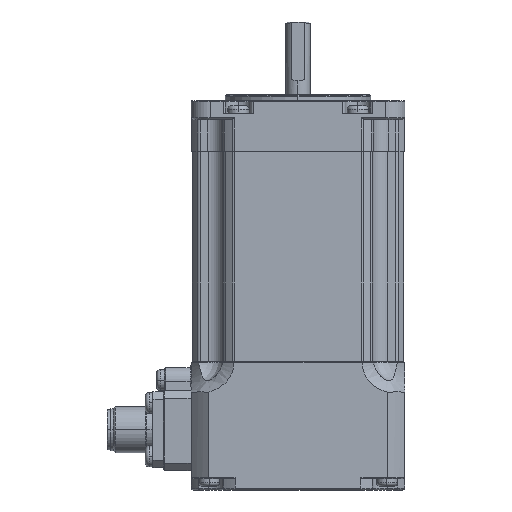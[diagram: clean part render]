
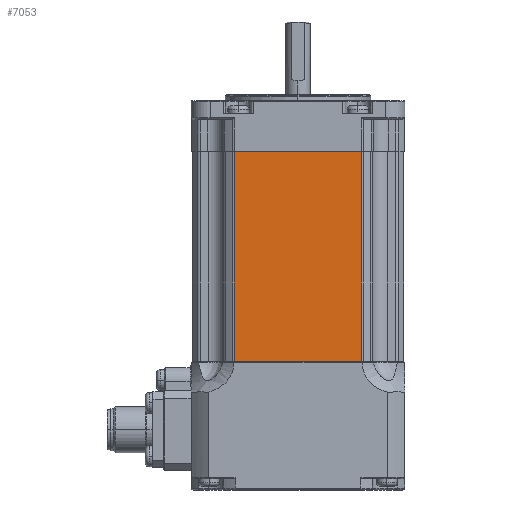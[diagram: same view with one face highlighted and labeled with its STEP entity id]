
A CAD part, left-side view. The second image highlights one B-rep face of the part: STEP entity #7053.
In plain terms, the highlighted planar face has unit normal (-1, 0, 0).
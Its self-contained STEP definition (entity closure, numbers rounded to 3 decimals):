
#531 = PLANE ( 'NONE',  #10846 ) ;
#1227 = CARTESIAN_POINT ( 'NONE',  ( -27.7, 16.714, 88.7 ) ) ;
#2163 = EDGE_CURVE ( 'NONE', #12146, #4502, #22148, .T. ) ;
#2474 = CARTESIAN_POINT ( 'NONE',  ( -27.7, 16.714, 88.7 ) ) ;
#2570 = DIRECTION ( 'NONE',  ( 0., 0., -1. ) ) ;
#2659 = CARTESIAN_POINT ( 'NONE',  ( -27.7, -16.715, 33.7 ) ) ;
#2900 = FACE_OUTER_BOUND ( 'NONE', #5599, .T. ) ;
#3240 = DIRECTION ( 'NONE',  ( 0., -1., 0. ) ) ;
#3468 = VERTEX_POINT ( 'NONE', #25133 ) ;
#4502 = VERTEX_POINT ( 'NONE', #2659 ) ;
#4674 = VECTOR ( 'NONE', #18162, 1000. ) ;
#5251 = VECTOR ( 'NONE', #18149, 1000. ) ;
#5363 = CARTESIAN_POINT ( 'NONE',  ( -27.7, -16.714, 88.7 ) ) ;
#5599 = EDGE_LOOP ( 'NONE', ( #16168, #10974, #8472, #18535 ) ) ;
#6261 = EDGE_CURVE ( 'NONE', #3468, #4502, #20613, .T. ) ;
#7053 = ADVANCED_FACE ( 'NONE', ( #2900 ), #531, .F. ) ;
#8472 = ORIENTED_EDGE ( 'NONE', *, *, #25824, .F. ) ;
#9938 = VERTEX_POINT ( 'NONE', #2474 ) ;
#10567 = EDGE_CURVE ( 'NONE', #9938, #3468, #15934, .T. ) ;
#10846 = AXIS2_PLACEMENT_3D ( 'NONE', #14448, #14524, #2570 ) ;
#10974 = ORIENTED_EDGE ( 'NONE', *, *, #2163, .F. ) ;
#12146 = VERTEX_POINT ( 'NONE', #5363 ) ;
#12181 = VECTOR ( 'NONE', #15932, 1000. ) ;
#12823 = VECTOR ( 'NONE', #3240, 1000. ) ;
#14135 = CARTESIAN_POINT ( 'NONE',  ( -27.7, 16.714, 88.7 ) ) ;
#14448 = CARTESIAN_POINT ( 'NONE',  ( -27.7, 16.714, 88.7 ) ) ;
#14524 = DIRECTION ( 'NONE',  ( 1., 0., 0. ) ) ;
#15901 = CARTESIAN_POINT ( 'NONE',  ( -27.7, -16.714, 88.7 ) ) ;
#15932 = DIRECTION ( 'NONE',  ( 0., 0., -1. ) ) ;
#15934 = LINE ( 'NONE', #14135, #5251 ) ;
#16164 = CARTESIAN_POINT ( 'NONE',  ( -27.7, -16.794, 33.7 ) ) ;
#16168 = ORIENTED_EDGE ( 'NONE', *, *, #6261, .T. ) ;
#18149 = DIRECTION ( 'NONE',  ( 0., 0., -1. ) ) ;
#18162 = DIRECTION ( 'NONE',  ( 0., -1., 0. ) ) ;
#18535 = ORIENTED_EDGE ( 'NONE', *, *, #10567, .T. ) ;
#18744 = LINE ( 'NONE', #1227, #12823 ) ;
#20613 = LINE ( 'NONE', #16164, #4674 ) ;
#22148 = LINE ( 'NONE', #15901, #12181 ) ;
#25133 = CARTESIAN_POINT ( 'NONE',  ( -27.7, 16.715, 33.7 ) ) ;
#25824 = EDGE_CURVE ( 'NONE', #9938, #12146, #18744, .T. ) ;
